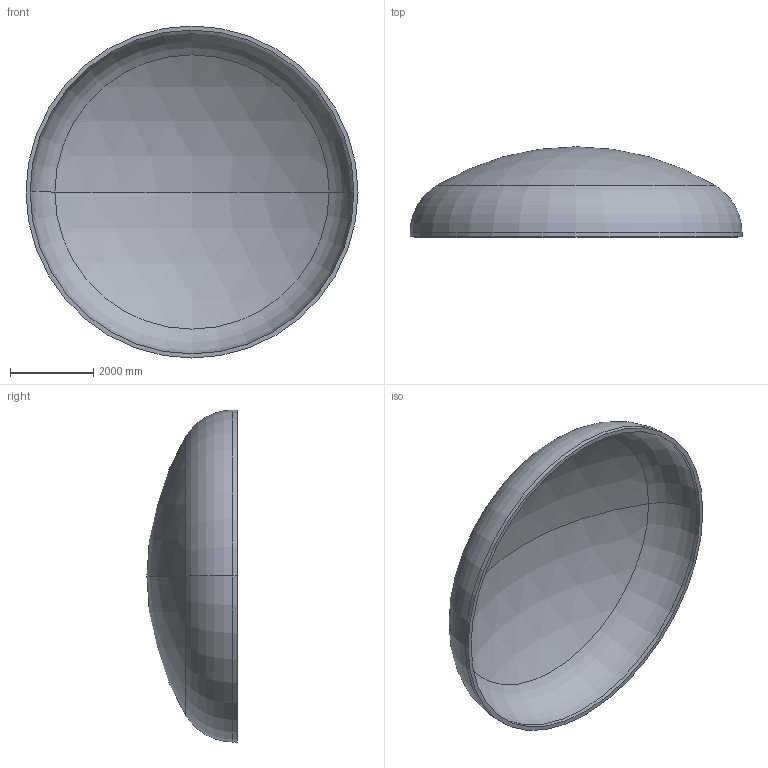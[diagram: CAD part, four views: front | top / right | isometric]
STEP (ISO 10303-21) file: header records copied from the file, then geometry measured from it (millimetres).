
FILE_DESCRIPTION (( 'STEP AP203' ), '1' );
FILE_NAME ('DIN 28013 Korbbogenform_-_Boden DIN 28013 - 8000 x 100 - I - s=100.step', '2016-07-04T11:05:08', ( '' ), ( '' ), 'SwSTEP 2.0', 'SolidWorks 2013', '' );
FILE_SCHEMA (( 'CONFIG_CONTROL_DESIGN' ));
Length unit declared in the file: millimetre
Products named in the file (1): DIN 28013 Korbbogenform_-_Boden DIN 28013 - 8000 x 100 - I - s=100
Bounding box: 8000 x 2172.81 x 8000 mm (x, y, z)
Volume: 7093600936 mm3; surface area: 144374766.2 mm2
Topology: 1 solids, 1 shells, 13 faces, 24 edges, 14 vertices
Faces by surface type: torus 4, cylinder 4, sphere 4, plane 1
Entity records: 407 total; most frequent: DIRECTION 72, CARTESIAN_POINT 52, ORIENTED_EDGE 48, AXIS2_PLACEMENT_3D 34, EDGE_CURVE 24, CIRCLE 20, VERTEX_POINT 14, EDGE_LOOP 14
